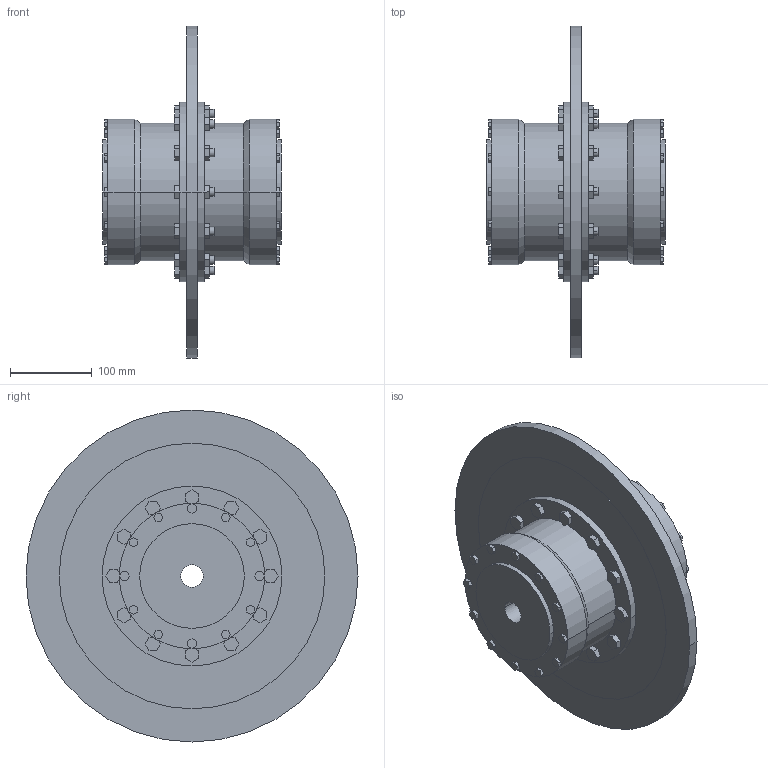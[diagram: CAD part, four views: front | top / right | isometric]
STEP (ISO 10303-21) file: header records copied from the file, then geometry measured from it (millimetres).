
FILE_DESCRIPTION((''),'2;1');
FILE_NAME('A19730100-0_ASM','2019-05-23T',('AB_Roschiwal'),('RENK AG'),'PRO/ENGINEER BY PARAMETRIC TECHNOLOGY CORPORATION, 2015440','PRO/ENGINEER BY PARAMETRIC TECHNOLOGY CORPORATION, 2015440','');
FILE_SCHEMA(('CONFIG_CONTROL_DESIGN'));
Length unit declared in the file: millimetre
Products named in the file (4): SBKT80_GEHAEUSE; SBKT80_NABE; SBKT80_BREMSSCHEIBE; A19730100-0_ASM
Assembly tree (4 placements, depth 2):
  A19730100-0_ASM
    SBKT80_GEHAEUSE
    SBKT80_NABE  x2
    SBKT80_BREMSSCHEIBE
Bounding box: 218 x 406 x 406 mm (x, y, z)
Volume: 5522875.9 mm3; surface area: 735825.1 mm2
Topology: 4 solids, 4 shells, 470 faces, 1156 edges, 768 vertices
Faces by surface type: plane 370, cylinder 96, cone 4
Entity records: 13604 total; most frequent: CARTESIAN_POINT 2350, ORIENTED_EDGE 2264, DIRECTION 2240, EDGE_CURVE 1132, VECTOR 956, LINE 956, VERTEX_POINT 752, AXIS2_PLACEMENT_3D 642
